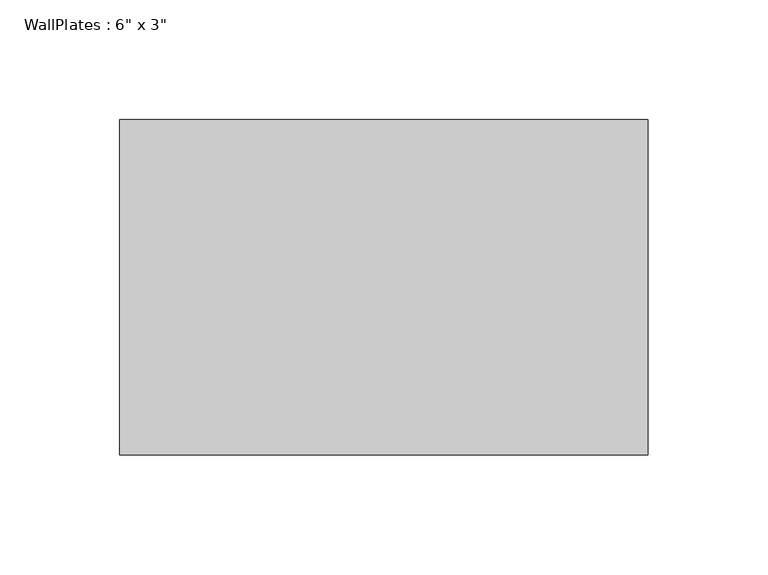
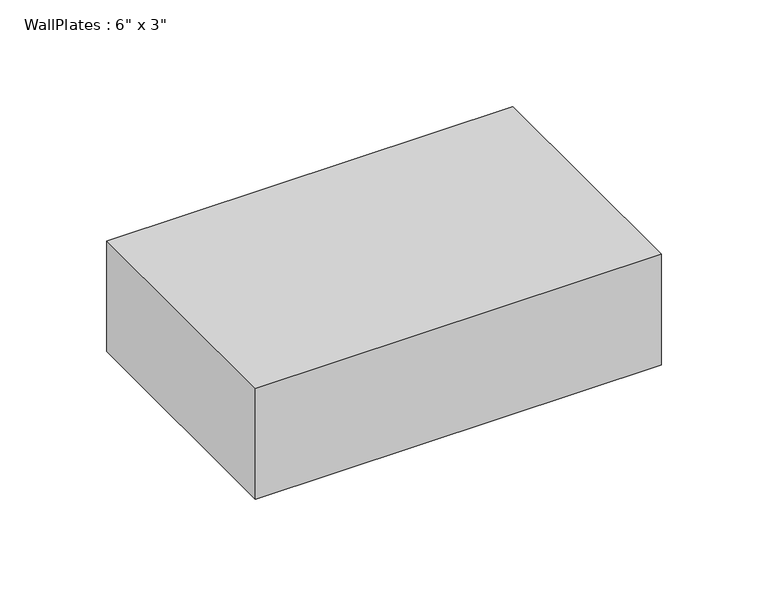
"""IFC4 building model written with IfcOpenShell, lengths in millimetres: beam geometry."""

from ifc_helpers import new_model, si_unit, frame, origin, place, context, project, spatial, polyline, outline, extrude, source, transform, mapped, element, save


def beam_b94c8671(model_context):
    return source(origin(), model_context, "Body", "SweptSolid", [
        extrude(outline(polyline([(-110.0616667, -69.85), (-110.0616667, 69.85), (110.0616667, 69.85), (110.0616667, -69.85), (-110.0616667, -69.85)])), frame((0.0, 0.0, -31.75), z_axis=(0.0, 0.0, 1.0), x_axis=(1.0, 0.0, 0.0)), (0.0, 0.0, 1.0), 63.5),
    ])


if __name__ == "__main__":
    model = new_model("IFC4")
    model_context = context("Model", 3, world=origin())
    ifc_project = project(units=[si_unit("LENGTHUNIT", "METRE", prefix="MILLI")], contexts=[model_context])
    site = spatial("IfcSite", under=ifc_project)
    building = spatial("IfcBuilding", under=site)
    placement = place(None, origin())
    beam_shape = beam_b94c8671(model_context)
    element("IfcBeam", 1, ObjectType="WallPlates : 6\" x 3\"", at=placement, inside=building, context=model_context, shape_type="MappedRepresentation", body=[
        mapped(beam_shape, transform((0.0, 0.0, 0.0), x_axis=(1.0, 0.0, 0.0), y_axis=(0.0, 1.0, 0.0), z_axis=(0.0, 0.0, 1.0))),
    ])
    save(model, "model.ifc")
